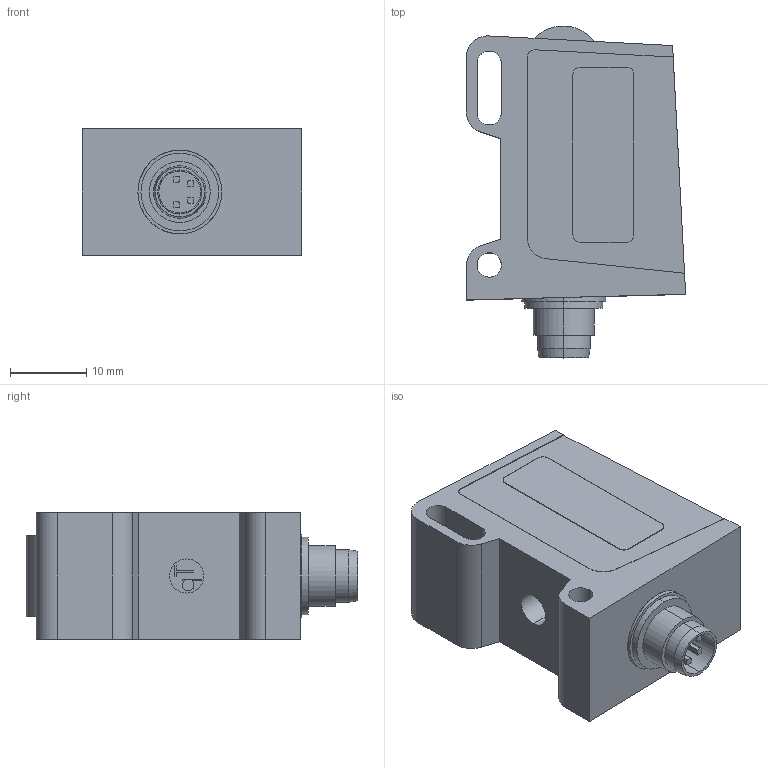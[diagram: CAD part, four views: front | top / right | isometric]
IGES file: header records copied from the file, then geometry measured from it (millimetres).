
Start section:  PTC IGES file: 2035034
Global section: file name: 2035034; native system: Creo Parametric by PTC Inc.; preprocessor: 2019292; author: s.mayer; organization: Unknown; date: 20230706.084819; units: millimetre
Bounding box: 28.8 x 43.59 x 16.6 mm (x, y, z)
Surface area: 4870.9 mm2 (no closed solid volume)
Topology: 0 solids, 0 shells, 129 faces, 674 edges, 672 vertices
Faces by surface type: bspline 74, revolution 55
